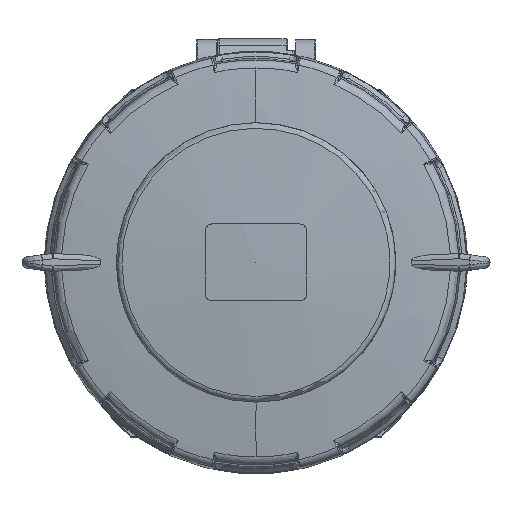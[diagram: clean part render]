
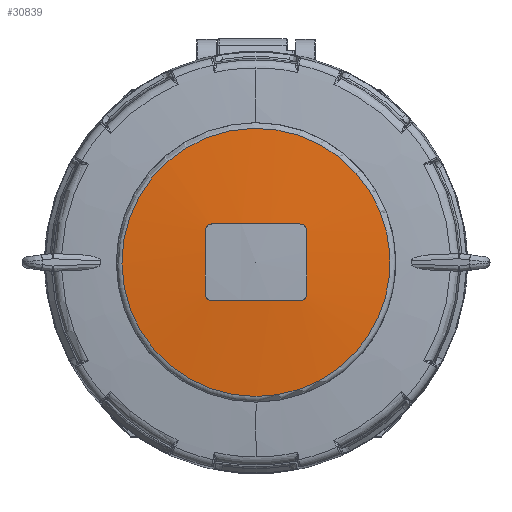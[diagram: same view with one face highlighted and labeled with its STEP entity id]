
A CAD part, top view. The second image highlights one B-rep face of the part: STEP entity #30839.
In plain terms, the highlighted spherical face has radius 364.736 mm.
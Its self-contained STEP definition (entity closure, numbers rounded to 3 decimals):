
#30839 = ADVANCED_FACE('',(#30840),#30989,.T.);
#30840 = FACE_BOUND('',#30841,.T.);
#30841 = EDGE_LOOP('',(#30842,#30853,#30863,#30872,#30893,#30902,#30923,
    #30932,#30953,#30962,#30981,#30982));
#30842 = ORIENTED_EDGE('',*,*,#30843,.F.);
#30843 = EDGE_CURVE('',#30844,#30846,#30848,.T.);
#30844 = VERTEX_POINT('',#30845);
#30845 = CARTESIAN_POINT('',(32.617,20.445,
    93.774));
#30846 = VERTEX_POINT('',#30847);
#30847 = CARTESIAN_POINT('',(0.,-38.189,93.774));
#30848 = CIRCLE('',#30849,38.389);
#30849 = AXIS2_PLACEMENT_3D('',#30850,#30851,#30852);
#30850 = CARTESIAN_POINT('',(0.,0.2,93.774));
#30851 = DIRECTION('',(0.,0.,-1.));
#30852 = DIRECTION('',(0.,-1.,0.));
#30853 = ORIENTED_EDGE('',*,*,#30854,.F.);
#30854 = EDGE_CURVE('',#30855,#30844,#30857,.T.);
#30855 = VERTEX_POINT('',#30856);
#30856 = CARTESIAN_POINT('',(14.5,9.2,95.401));
#30857 = B_SPLINE_CURVE_WITH_KNOTS('',4,(#30858,#30859,#30860,#30861,
    #30862),.UNSPECIFIED.,.F.,.F.,(5,5),(-1.524,-1.465
    ),.PIECEWISE_BEZIER_KNOTS.);
#30858 = CARTESIAN_POINT('',(14.5,9.2,
    95.401));
#30859 = CARTESIAN_POINT('',(19.038,12.017,
    95.15));
#30860 = CARTESIAN_POINT('',(23.572,14.831,
    94.796));
#30861 = CARTESIAN_POINT('',(28.099,17.641,
    94.337));
#30862 = CARTESIAN_POINT('',(32.617,20.445,
    93.774));
#30863 = ORIENTED_EDGE('',*,*,#30864,.F.);
#30864 = EDGE_CURVE('',#30865,#30855,#30867,.T.);
#30865 = VERTEX_POINT('',#30866);
#30866 = CARTESIAN_POINT('',(14.5,-8.8,95.401));
#30867 = CIRCLE('',#30868,364.448);
#30868 = AXIS2_PLACEMENT_3D('',#30869,#30870,#30871);
#30869 = CARTESIAN_POINT('',(14.5,0.2,-268.936));
#30870 = DIRECTION('',(-1.,0.,0.));
#30871 = DIRECTION('',(0.,-1.,0.));
#30872 = ORIENTED_EDGE('',*,*,#30873,.T.);
#30873 = EDGE_CURVE('',#30865,#30874,#30876,.T.);
#30874 = VERTEX_POINT('',#30875);
#30875 = CARTESIAN_POINT('',(12.5,-10.8,95.42));
#30876 = B_SPLINE_CURVE_WITH_KNOTS('',3,(#30877,#30878,#30879,#30880,
    #30881,#30882,#30883,#30884,#30885,#30886,#30887,#30888,#30889,
    #30890,#30891,#30892),.UNSPECIFIED.,.F.,.F.,(4,3,3,3,3,4),(0.,
    0.215,0.43,0.644,0.859,1.),
  .UNSPECIFIED.);
#30877 = CARTESIAN_POINT('',(14.5,-8.8,95.401));
#30878 = CARTESIAN_POINT('',(14.5,-9.024,95.395));
#30879 = CARTESIAN_POINT('',(14.461,-9.25,
    95.391));
#30880 = CARTESIAN_POINT('',(14.387,-9.462,
    95.388));
#30881 = CARTESIAN_POINT('',(14.313,-9.673,
    95.385));
#30882 = CARTESIAN_POINT('',(14.202,-9.874,
    95.384));
#30883 = CARTESIAN_POINT('',(14.062,-10.049,
    95.385));
#30884 = CARTESIAN_POINT('',(13.923,-10.223,
    95.385));
#30885 = CARTESIAN_POINT('',(13.751,-10.376,
    95.387));
#30886 = CARTESIAN_POINT('',(13.561,-10.495,
    95.391));
#30887 = CARTESIAN_POINT('',(13.372,-10.614,
    95.394));
#30888 = CARTESIAN_POINT('',(13.159,-10.701,
    95.4));
#30889 = CARTESIAN_POINT('',(12.941,-10.751,
    95.406));
#30890 = CARTESIAN_POINT('',(12.797,-10.783,
    95.41));
#30891 = CARTESIAN_POINT('',(12.648,-10.8,95.415));
#30892 = CARTESIAN_POINT('',(12.5,-10.8,95.42));
#30893 = ORIENTED_EDGE('',*,*,#30894,.F.);
#30894 = EDGE_CURVE('',#30895,#30874,#30897,.T.);
#30895 = VERTEX_POINT('',#30896);
#30896 = CARTESIAN_POINT('',(-12.5,-10.8,95.42));
#30897 = CIRCLE('',#30898,364.57);
#30898 = AXIS2_PLACEMENT_3D('',#30899,#30900,#30901);
#30899 = CARTESIAN_POINT('',(0.,-10.8,-268.936));
#30900 = DIRECTION('',(0.,1.,0.));
#30901 = DIRECTION('',(-1.,0.,0.));
#30902 = ORIENTED_EDGE('',*,*,#30903,.T.);
#30903 = EDGE_CURVE('',#30895,#30904,#30906,.T.);
#30904 = VERTEX_POINT('',#30905);
#30905 = CARTESIAN_POINT('',(-14.5,-8.8,95.401));
#30906 = B_SPLINE_CURVE_WITH_KNOTS('',3,(#30907,#30908,#30909,#30910,
    #30911,#30912,#30913,#30914,#30915,#30916,#30917,#30918,#30919,
    #30920,#30921,#30922),.UNSPECIFIED.,.F.,.F.,(4,3,3,3,3,4),(0.,
    0.215,0.43,0.645,0.859,1.),
  .UNSPECIFIED.);
#30907 = CARTESIAN_POINT('',(-12.5,-10.8,95.42));
#30908 = CARTESIAN_POINT('',(-12.724,-10.8,
    95.412));
#30909 = CARTESIAN_POINT('',(-12.951,-10.761,
    95.405));
#30910 = CARTESIAN_POINT('',(-13.162,-10.687,
    95.4));
#30911 = CARTESIAN_POINT('',(-13.373,-10.613,
    95.394));
#30912 = CARTESIAN_POINT('',(-13.574,-10.502,
    95.39));
#30913 = CARTESIAN_POINT('',(-13.749,-10.362,
    95.388));
#30914 = CARTESIAN_POINT('',(-13.924,-10.222,
    95.385));
#30915 = CARTESIAN_POINT('',(-14.077,-10.05,
    95.384));
#30916 = CARTESIAN_POINT('',(-14.196,-9.86,
    95.385));
#30917 = CARTESIAN_POINT('',(-14.314,-9.671,
    95.385));
#30918 = CARTESIAN_POINT('',(-14.402,-9.458,
    95.388));
#30919 = CARTESIAN_POINT('',(-14.451,-9.24,
    95.391));
#30920 = CARTESIAN_POINT('',(-14.483,-9.096,
    95.394));
#30921 = CARTESIAN_POINT('',(-14.5,-8.948,95.397));
#30922 = CARTESIAN_POINT('',(-14.5,-8.8,95.401));
#30923 = ORIENTED_EDGE('',*,*,#30924,.F.);
#30924 = EDGE_CURVE('',#30925,#30904,#30927,.T.);
#30925 = VERTEX_POINT('',#30926);
#30926 = CARTESIAN_POINT('',(-14.5,9.2,95.401));
#30927 = CIRCLE('',#30928,364.448);
#30928 = AXIS2_PLACEMENT_3D('',#30929,#30930,#30931);
#30929 = CARTESIAN_POINT('',(-14.5,0.2,-268.936));
#30930 = DIRECTION('',(1.,0.,0.));
#30931 = DIRECTION('',(-0.,1.,0.));
#30932 = ORIENTED_EDGE('',*,*,#30933,.T.);
#30933 = EDGE_CURVE('',#30925,#30934,#30936,.T.);
#30934 = VERTEX_POINT('',#30935);
#30935 = CARTESIAN_POINT('',(-12.5,11.2,95.42));
#30936 = B_SPLINE_CURVE_WITH_KNOTS('',3,(#30937,#30938,#30939,#30940,
    #30941,#30942,#30943,#30944,#30945,#30946,#30947,#30948,#30949,
    #30950,#30951,#30952),.UNSPECIFIED.,.F.,.F.,(4,3,3,3,3,4),(0.,
    0.215,0.43,0.644,0.859,1.),
  .UNSPECIFIED.);
#30937 = CARTESIAN_POINT('',(-14.5,9.2,95.401));
#30938 = CARTESIAN_POINT('',(-14.5,9.424,95.395));
#30939 = CARTESIAN_POINT('',(-14.461,9.65,
    95.391));
#30940 = CARTESIAN_POINT('',(-14.387,9.862,
    95.388));
#30941 = CARTESIAN_POINT('',(-14.313,10.073,
    95.385));
#30942 = CARTESIAN_POINT('',(-14.202,10.274,
    95.384));
#30943 = CARTESIAN_POINT('',(-14.062,10.449,
    95.385));
#30944 = CARTESIAN_POINT('',(-13.923,10.623,
    95.385));
#30945 = CARTESIAN_POINT('',(-13.751,10.776,
    95.387));
#30946 = CARTESIAN_POINT('',(-13.561,10.895,
    95.391));
#30947 = CARTESIAN_POINT('',(-13.372,11.014,
    95.394));
#30948 = CARTESIAN_POINT('',(-13.159,11.101,
    95.4));
#30949 = CARTESIAN_POINT('',(-12.941,11.151,
    95.406));
#30950 = CARTESIAN_POINT('',(-12.797,11.183,
    95.41));
#30951 = CARTESIAN_POINT('',(-12.648,11.2,95.415));
#30952 = CARTESIAN_POINT('',(-12.5,11.2,95.42));
#30953 = ORIENTED_EDGE('',*,*,#30954,.F.);
#30954 = EDGE_CURVE('',#30955,#30934,#30957,.T.);
#30955 = VERTEX_POINT('',#30956);
#30956 = CARTESIAN_POINT('',(12.5,11.2,95.42));
#30957 = CIRCLE('',#30958,364.57);
#30958 = AXIS2_PLACEMENT_3D('',#30959,#30960,#30961);
#30959 = CARTESIAN_POINT('',(0.,11.2,-268.936));
#30960 = DIRECTION('',(0.,-1.,0.));
#30961 = DIRECTION('',(1.,0.,0.));
#30962 = ORIENTED_EDGE('',*,*,#30963,.T.);
#30963 = EDGE_CURVE('',#30955,#30855,#30964,.T.);
#30964 = B_SPLINE_CURVE_WITH_KNOTS('',3,(#30965,#30966,#30967,#30968,
    #30969,#30970,#30971,#30972,#30973,#30974,#30975,#30976,#30977,
    #30978,#30979,#30980),.UNSPECIFIED.,.F.,.F.,(4,3,3,3,3,4),(0.,
    0.215,0.43,0.645,0.859,1.),
  .UNSPECIFIED.);
#30965 = CARTESIAN_POINT('',(12.5,11.2,95.42));
#30966 = CARTESIAN_POINT('',(12.724,11.2,
    95.412));
#30967 = CARTESIAN_POINT('',(12.951,11.161,
    95.405));
#30968 = CARTESIAN_POINT('',(13.162,11.087,
    95.4));
#30969 = CARTESIAN_POINT('',(13.373,11.013,
    95.394));
#30970 = CARTESIAN_POINT('',(13.574,10.902,
    95.39));
#30971 = CARTESIAN_POINT('',(13.749,10.762,
    95.388));
#30972 = CARTESIAN_POINT('',(13.924,10.622,
    95.385));
#30973 = CARTESIAN_POINT('',(14.077,10.45,
    95.384));
#30974 = CARTESIAN_POINT('',(14.196,10.26,
    95.385));
#30975 = CARTESIAN_POINT('',(14.314,10.071,
    95.385));
#30976 = CARTESIAN_POINT('',(14.402,9.858,
    95.388));
#30977 = CARTESIAN_POINT('',(14.451,9.64,
    95.391));
#30978 = CARTESIAN_POINT('',(14.483,9.496,
    95.394));
#30979 = CARTESIAN_POINT('',(14.5,9.348,95.397));
#30980 = CARTESIAN_POINT('',(14.5,9.2,95.401));
#30981 = ORIENTED_EDGE('',*,*,#30854,.T.);
#30982 = ORIENTED_EDGE('',*,*,#30983,.F.);
#30983 = EDGE_CURVE('',#30846,#30844,#30984,.T.);
#30984 = CIRCLE('',#30985,38.389);
#30985 = AXIS2_PLACEMENT_3D('',#30986,#30987,#30988);
#30986 = CARTESIAN_POINT('',(0.,0.2,93.774));
#30987 = DIRECTION('',(0.,0.,-1.));
#30988 = DIRECTION('',(0.,-1.,0.));
#30989 = SPHERICAL_SURFACE('',#30990,364.736);
#30990 = AXIS2_PLACEMENT_3D('',#30991,#30992,#30993);
#30991 = CARTESIAN_POINT('',(0.,0.2,-268.936));
#30992 = DIRECTION('',(0.,0.,-1.));
#30993 = DIRECTION('',(1.,0.,0.));
